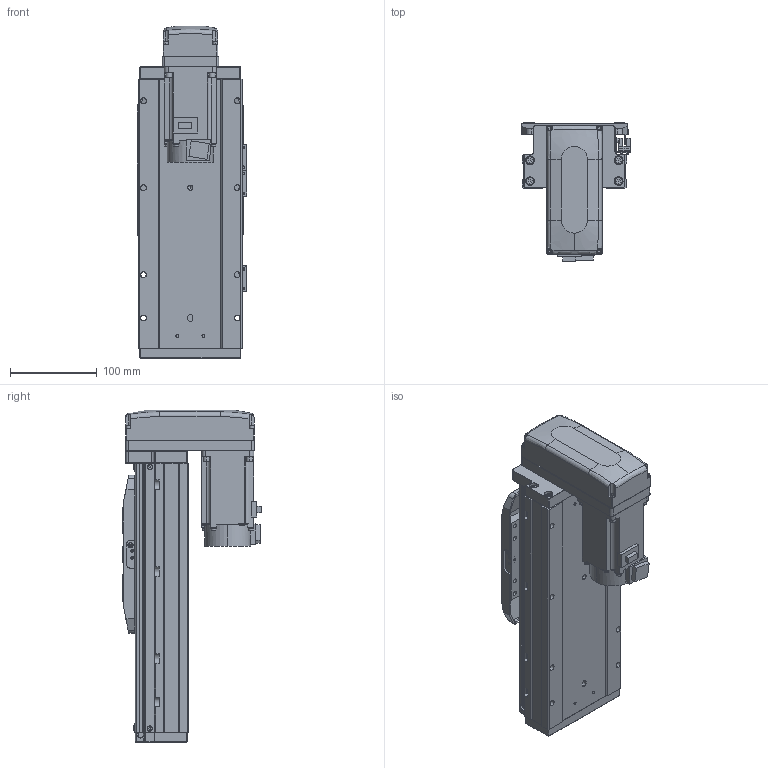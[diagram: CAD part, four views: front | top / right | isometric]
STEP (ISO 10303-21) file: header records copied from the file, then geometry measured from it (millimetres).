
FILE_DESCRIPTION (( 'STEP AP203' ), '1' );
FILE_NAME ('GTH12-100-BM-M40-C4.step', '2022-09-29T01:59:42', ( '微软用户' ), ( '微软中国' ), 'SwSTEP 2.0', 'SolidWorks 2020', '' );
FILE_SCHEMA (( 'CONFIG_CONTROL_DESIGN' ));
Length unit declared in the file: millimetre
Products named in the file (18): GBT 70.1-M3℅6; GBT96.1-2002 3×0.8; GBT 70.1-M5×16; BTH-M3X5X6; GTH120-001_100; GBT 70.3-M3℅8; hg-kn43j_-s100_; GTH120-003; GTH80-022; CTHA86-033_M40B; GTH120-006; GTH80-028; GTH120-027-1_GTH120-027-2; GTH120-004; GTH50-023; GTH12-100-BM-M40-C4; GTH120-013; GTH50-024
Assembly tree (59 placements, depth 2):
  GTH12-100-BM-M40-C4
    GTH120-001_100
    GTH120-003
    GTH120-006
    GTH120-004
    GTH120-013
    GBT 70.1-M3℅6  x14
    GBT 70.1-M5×16  x10
    GBT 70.3-M3℅8  x4
    GTH80-022
    GTH80-028  x2
    GTH50-023  x3
    GTH50-024  x3
    GBT96.1-2002 3×0.8  x6
    BTH-M3X5X6  x8
    hg-kn43j_-s100_
    CTHA86-033_M40B
    GTH120-027-1_GTH120-027-2
Bounding box: 125.7 x 159.8 x 382 mm (x, y, z)
Volume: 3276305.6 mm3; surface area: 396486 mm2
Topology: 61 solids, 61 shells, 2336 faces, 5411 edges, 3317 vertices
Faces by surface type: plane 1222, cylinder 654, cone 272, torus 174, sphere 8, bspline 6
Entity records: 42273 total; most frequent: CARTESIAN_POINT 7194, DIRECTION 6939, ORIENTED_EDGE 6432, EDGE_CURVE 3216, AXIS2_PLACEMENT_3D 2427, VECTOR 2085, LINE 2085, VERTEX_POINT 2038
